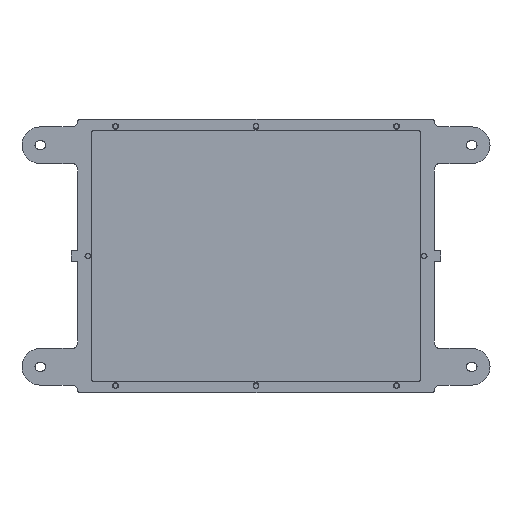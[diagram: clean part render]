
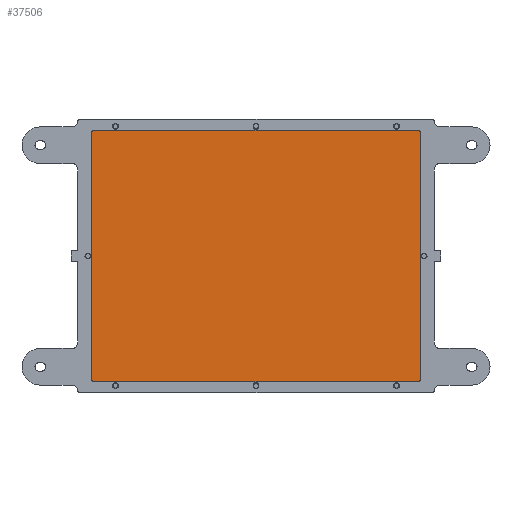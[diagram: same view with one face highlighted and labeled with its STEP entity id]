
A CAD part, front view. The second image highlights one B-rep face of the part: STEP entity #37506.
In plain terms, the highlighted planar face has unit normal (0, -1, 0).
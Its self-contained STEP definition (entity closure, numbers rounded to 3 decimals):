
#568 = CARTESIAN_POINT ( 'NONE',  ( 150., 25.733, 439.5 ) ) ;
#1647 = DIRECTION ( 'NONE',  ( 0., 0., -1. ) ) ;
#2767 = LINE ( 'NONE', #24722, #45945 ) ;
#3490 = ORIENTED_EDGE ( 'NONE', *, *, #38916, .F. ) ;
#4837 = VECTOR ( 'NONE', #1647, 1000. ) ;
#6741 = VERTEX_POINT ( 'NONE', #27259 ) ;
#6957 = CIRCLE ( 'NONE', #25760, 2. ) ;
#7108 = ORIENTED_EDGE ( 'NONE', *, *, #38037, .F. ) ;
#8638 = DIRECTION ( 'NONE',  ( 0., 0., 1. ) ) ;
#8806 = DIRECTION ( 'NONE',  ( 0., 0., -1. ) ) ;
#8852 = CARTESIAN_POINT ( 'NONE',  ( -154., 25.733, 439.5 ) ) ;
#9393 = DIRECTION ( 'NONE',  ( 0., 1., 0. ) ) ;
#9920 = CARTESIAN_POINT ( 'NONE',  ( -152., 25.733, 439.5 ) ) ;
#10357 = ORIENTED_EDGE ( 'NONE', *, *, #37128, .F. ) ;
#10456 = CIRCLE ( 'NONE', #38157, 2. ) ;
#11298 = ORIENTED_EDGE ( 'NONE', *, *, #38506, .F. ) ;
#12344 = VERTEX_POINT ( 'NONE', #30288 ) ;
#14599 = VERTEX_POINT ( 'NONE', #45389 ) ;
#15101 = CARTESIAN_POINT ( 'NONE',  ( -154., 25.733, 210.5 ) ) ;
#15329 = VERTEX_POINT ( 'NONE', #17219 ) ;
#16131 = LINE ( 'NONE', #39994, #36228 ) ;
#16212 = AXIS2_PLACEMENT_3D ( 'NONE', #34345, #34176, #34166 ) ;
#16527 = CIRCLE ( 'NONE', #16212, 2. ) ;
#17039 = FACE_OUTER_BOUND ( 'NONE', #40606, .T. ) ;
#17219 = CARTESIAN_POINT ( 'NONE',  ( -152., 25.733, 208.5 ) ) ;
#19287 = CARTESIAN_POINT ( 'NONE',  ( 148., 25.733, 441.5 ) ) ;
#22286 = ORIENTED_EDGE ( 'NONE', *, *, #35979, .F. ) ;
#22763 = DIRECTION ( 'NONE',  ( 0., 0., 1. ) ) ;
#22937 = DIRECTION ( 'NONE',  ( 0., 1., 0. ) ) ;
#23113 = CARTESIAN_POINT ( 'NONE',  ( -2., 25.733, 325. ) ) ;
#24007 = DIRECTION ( 'NONE',  ( -1., 0., 0. ) ) ;
#24021 = CARTESIAN_POINT ( 'NONE',  ( 150., 25.733, 439.5 ) ) ;
#24057 = ORIENTED_EDGE ( 'NONE', *, *, #36328, .F. ) ;
#24722 = CARTESIAN_POINT ( 'NONE',  ( -152., 25.733, 208.5 ) ) ;
#24923 = PLANE ( 'NONE',  #46867 ) ;
#25760 = AXIS2_PLACEMENT_3D ( 'NONE', #28052, #27983, #27876 ) ;
#25778 = LINE ( 'NONE', #8852, #44567 ) ;
#26135 = VERTEX_POINT ( 'NONE', #47358 ) ;
#26616 = LINE ( 'NONE', #568, #4837 ) ;
#27259 = CARTESIAN_POINT ( 'NONE',  ( -152., 25.733, 441.5 ) ) ;
#27876 = DIRECTION ( 'NONE',  ( 0., 0., 1. ) ) ;
#27983 = DIRECTION ( 'NONE',  ( 0., 1., 0. ) ) ;
#28052 = CARTESIAN_POINT ( 'NONE',  ( 148., 25.733, 439.5 ) ) ;
#28984 = DIRECTION ( 'NONE',  ( 0., 0., -1. ) ) ;
#29041 = ORIENTED_EDGE ( 'NONE', *, *, #35511, .F. ) ;
#30288 = CARTESIAN_POINT ( 'NONE',  ( 150., 25.733, 210.5 ) ) ;
#30697 = DIRECTION ( 'NONE',  ( 0., 1., 0. ) ) ;
#31379 = CARTESIAN_POINT ( 'NONE',  ( -152., 25.733, 210.5 ) ) ;
#34166 = DIRECTION ( 'NONE',  ( 0., 0., -1. ) ) ;
#34176 = DIRECTION ( 'NONE',  ( 0., 1., 0. ) ) ;
#34345 = CARTESIAN_POINT ( 'NONE',  ( 148., 25.733, 210.5 ) ) ;
#35468 = ORIENTED_EDGE ( 'NONE', *, *, #37605, .F. ) ;
#35511 = EDGE_CURVE ( 'NONE', #49617, #12344, #26616, .T. ) ;
#35979 = EDGE_CURVE ( 'NONE', #12344, #26135, #16527, .T. ) ;
#36228 = VECTOR ( 'NONE', #39922, 1000. ) ;
#36328 = EDGE_CURVE ( 'NONE', #26135, #15329, #2767, .T. ) ;
#37128 = EDGE_CURVE ( 'NONE', #15329, #40643, #10456, .T. ) ;
#37506 = ADVANCED_FACE ( 'NONE', ( #17039 ), #24923, .F. ) ;
#37605 = EDGE_CURVE ( 'NONE', #40643, #14599, #25778, .T. ) ;
#38037 = EDGE_CURVE ( 'NONE', #14599, #6741, #40148, .T. ) ;
#38157 = AXIS2_PLACEMENT_3D ( 'NONE', #31379, #30697, #28984 ) ;
#38506 = EDGE_CURVE ( 'NONE', #6741, #40106, #16131, .T. ) ;
#38916 = EDGE_CURVE ( 'NONE', #40106, #49617, #6957, .T. ) ;
#39922 = DIRECTION ( 'NONE',  ( 1., 0., 0. ) ) ;
#39994 = CARTESIAN_POINT ( 'NONE',  ( -152., 25.733, 441.5 ) ) ;
#40106 = VERTEX_POINT ( 'NONE', #19287 ) ;
#40148 = CIRCLE ( 'NONE', #51917, 2. ) ;
#40606 = EDGE_LOOP ( 'NONE', ( #3490, #11298, #7108, #35468, #10357, #24057, #22286, #29041 ) ) ;
#40643 = VERTEX_POINT ( 'NONE', #15101 ) ;
#44567 = VECTOR ( 'NONE', #8638, 1000. ) ;
#45389 = CARTESIAN_POINT ( 'NONE',  ( -154., 25.733, 439.5 ) ) ;
#45945 = VECTOR ( 'NONE', #24007, 1000. ) ;
#46867 = AXIS2_PLACEMENT_3D ( 'NONE', #23113, #22937, #22763 ) ;
#47358 = CARTESIAN_POINT ( 'NONE',  ( 148., 25.733, 208.5 ) ) ;
#49617 = VERTEX_POINT ( 'NONE', #24021 ) ;
#51917 = AXIS2_PLACEMENT_3D ( 'NONE', #9920, #9393, #8806 ) ;
